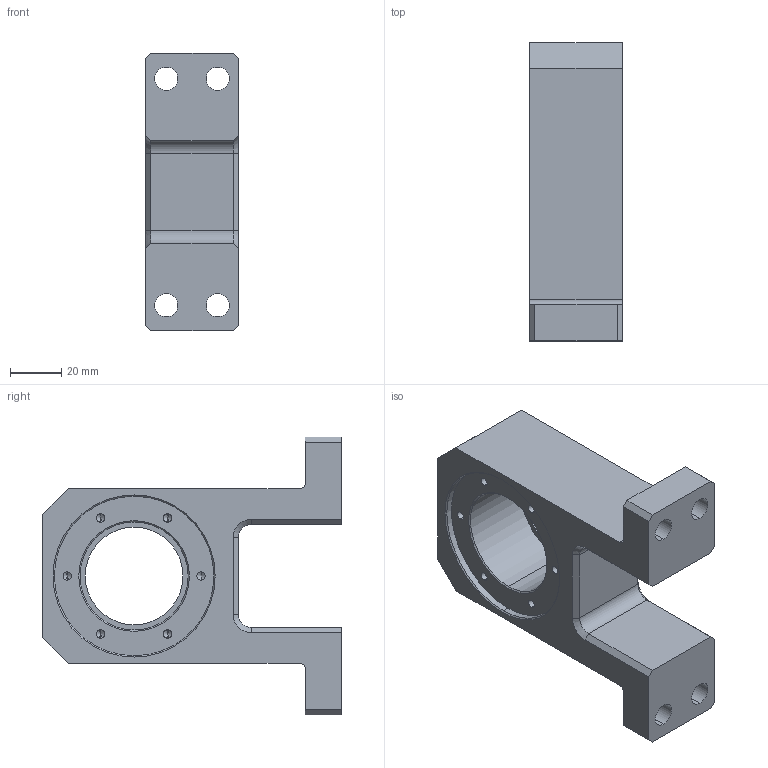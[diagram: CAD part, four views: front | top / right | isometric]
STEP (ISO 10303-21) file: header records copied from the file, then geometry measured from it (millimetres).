
FILE_DESCRIPTION (( 'STEP AP214' ), '1' );
FILE_NAME ('AGZ061.03.02_V1套筒轴承座.STEP', '2021-09-23T05:19:30', ( '微软中国' ), ( 'Microsoft' ), 'SwSTEP 2.0', 'SolidWorks 2017', '' );
FILE_SCHEMA (( 'AUTOMOTIVE_DESIGN' ));
Length unit declared in the file: millimetre
Products named in the file (1): AGZ061.03.02_V1杶芠粣創釱
Bounding box: 36 x 116 x 108 mm (x, y, z)
Volume: 185083.4 mm3; surface area: 35833.2 mm2
Topology: 1 solids, 1 shells, 78 faces, 198 edges, 118 vertices
Faces by surface type: cylinder 30, plane 28, cone 20
Entity records: 2440 total; most frequent: DIRECTION 412, CARTESIAN_POINT 383, ORIENTED_EDGE 372, EDGE_CURVE 186, AXIS2_PLACEMENT_3D 147, VECTOR 118, LINE 118, VERTEX_POINT 118
